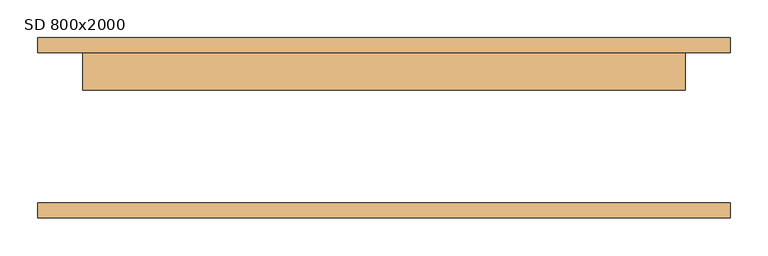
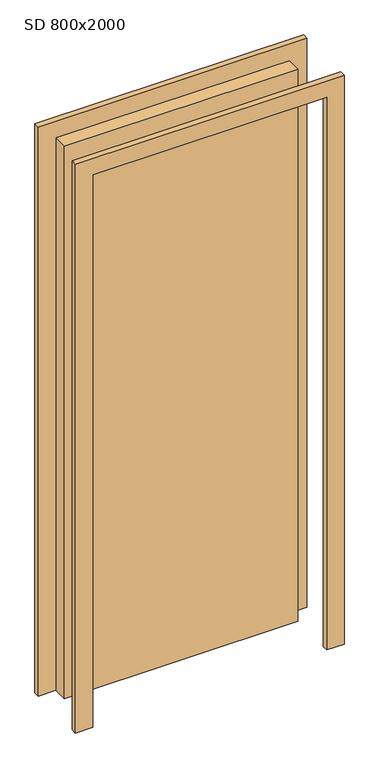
"""IFC4 building model written with IfcOpenShell, lengths in millimetres: door geometry, JednokridlePlne : SD 800x2000."""

from ifc_helpers import new_model, si_unit, frame, origin, origin_with_axes, place, context, project, spatial, polyline, outline, extrude, source, transform, mapped, element, save


def sd_800x2000_e6dfe1af(model_context):
    return source(origin(), model_context, "Body", "SweptSolid", [
        extrude(outline(polyline([(2060.0, -460.0), (0.0, -460.0), (0.0, -400.0), (2000.0, -400.0), (2000.0, 400.0), (0.0, 400.0), (0.0, 460.0), (2060.0, 460.0), (2060.0, -460.0)])), frame((0.0, 100.0, 0.0), z_axis=(0.0, 1.0, 0.0), x_axis=(0.0, 0.0, 1.0)), (0.0, 0.0, 1.0), 20.0),
        extrude(outline(polyline([(2060.0, 460.0), (2060.0, -460.0), (0.0, -460.0), (0.0, -400.0), (2000.0, -400.0), (2000.0, 400.0), (0.0, 400.0), (0.0, 460.0), (2060.0, 460.0)])), frame((0.0, -120.0, 0.0), z_axis=(0.0, 1.0, 0.0), x_axis=(0.0, 0.0, 1.0)), (0.0, 0.0, 1.0), 20.0),
        extrude(outline(polyline([(400.0, 50.0), (-400.0, 50.0), (-400.0, 100.0), (400.0, 100.0), (400.0, 50.0)])), origin_with_axes(), (0.0, 0.0, 1.0), 2000.0),
    ])


if __name__ == "__main__":
    model = new_model("IFC4")
    model_context = context("Model", 3, world=origin())
    ifc_project = project(units=[si_unit("LENGTHUNIT", "METRE", prefix="MILLI")], contexts=[model_context])
    site = spatial("IfcSite", under=ifc_project)
    building = spatial("IfcBuilding", under=site)
    placement = place(None, origin())
    sd_800x2000_shape = sd_800x2000_e6dfe1af(model_context)
    element("IfcDoor", 1, ObjectType="JednokridlePlne : SD 800x2000", at=placement, inside=building, context=model_context, shape_type="MappedRepresentation", body=[
        mapped(sd_800x2000_shape, transform((0.0, 0.0, 0.0), x_axis=(1.0, 0.0, 0.0), y_axis=(0.0, 1.0, 0.0), z_axis=(0.0, 0.0, 1.0))),
    ])
    save(model, "model.ifc")
